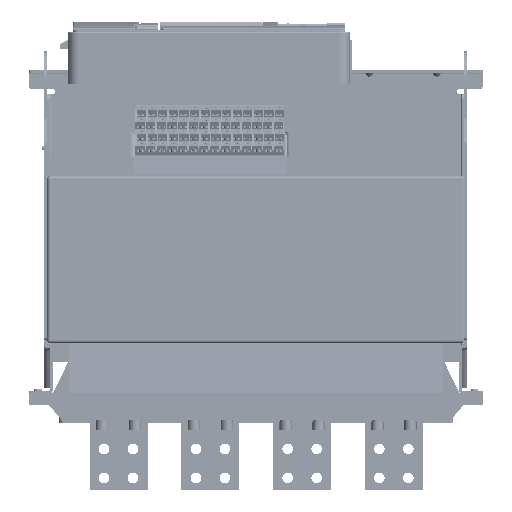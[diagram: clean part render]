
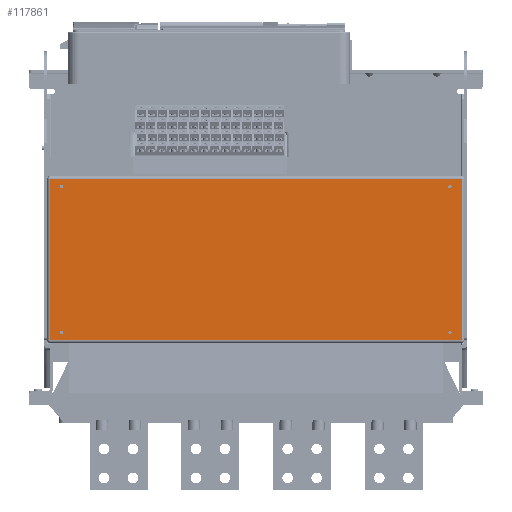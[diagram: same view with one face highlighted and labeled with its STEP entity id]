
A CAD part, front view. The second image highlights one B-rep face of the part: STEP entity #117861.
In plain terms, the highlighted planar face has unit normal (0, -1, 0).
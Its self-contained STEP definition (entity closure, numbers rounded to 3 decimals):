
#5237=FACE_BOUND('',#14784,.T.);
#5238=FACE_BOUND('',#14785,.T.);
#5239=FACE_BOUND('',#14786,.T.);
#5240=FACE_BOUND('',#14787,.T.);
#8092=FACE_OUTER_BOUND('',#14783,.T.);
#14783=EDGE_LOOP('',(#89693,#89694,#89695,#89696));
#14784=EDGE_LOOP('',(#89697));
#14785=EDGE_LOOP('',(#89698));
#14786=EDGE_LOOP('',(#89699));
#14787=EDGE_LOOP('',(#89700));
#20280=CIRCLE('',#126060,1.75);
#20281=CIRCLE('',#126061,1.75);
#20282=CIRCLE('',#126062,1.75);
#20283=CIRCLE('',#126063,1.75);
#27973=LINE('',#180668,#40714);
#27974=LINE('',#180670,#40715);
#27975=LINE('',#180672,#40716);
#27976=LINE('',#180673,#40717);
#40714=VECTOR('',#145216,167.);
#40715=VECTOR('',#145217,426.);
#40716=VECTOR('',#145218,167.);
#40717=VECTOR('',#145219,426.);
#52456=VERTEX_POINT('',#180666);
#52457=VERTEX_POINT('',#180667);
#52458=VERTEX_POINT('',#180669);
#52459=VERTEX_POINT('',#180671);
#52460=VERTEX_POINT('',#180674);
#52461=VERTEX_POINT('',#180676);
#52462=VERTEX_POINT('',#180678);
#52463=VERTEX_POINT('',#180680);
#65949=EDGE_CURVE('',#52456,#52457,#27973,.T.);
#65950=EDGE_CURVE('',#52457,#52458,#27974,.T.);
#65951=EDGE_CURVE('',#52458,#52459,#27975,.T.);
#65952=EDGE_CURVE('',#52459,#52456,#27976,.T.);
#65953=EDGE_CURVE('',#52460,#52460,#20280,.T.);
#65954=EDGE_CURVE('',#52461,#52461,#20281,.T.);
#65955=EDGE_CURVE('',#52462,#52462,#20282,.T.);
#65956=EDGE_CURVE('',#52463,#52463,#20283,.T.);
#89693=ORIENTED_EDGE('',*,*,#65949,.T.);
#89694=ORIENTED_EDGE('',*,*,#65950,.T.);
#89695=ORIENTED_EDGE('',*,*,#65951,.T.);
#89696=ORIENTED_EDGE('',*,*,#65952,.T.);
#89697=ORIENTED_EDGE('',*,*,#65953,.F.);
#89698=ORIENTED_EDGE('',*,*,#65954,.F.);
#89699=ORIENTED_EDGE('',*,*,#65955,.F.);
#89700=ORIENTED_EDGE('',*,*,#65956,.F.);
#113066=PLANE('',#126059);
#117861=ADVANCED_FACE('',(#8092,#5237,#5238,#5239,#5240),#113066,.F.);
#126059=AXIS2_PLACEMENT_3D('',#180665,#145214,#145215);
#126060=AXIS2_PLACEMENT_3D('',#180675,#145220,#145221);
#126061=AXIS2_PLACEMENT_3D('',#180677,#145222,#145223);
#126062=AXIS2_PLACEMENT_3D('',#180679,#145224,#145225);
#126063=AXIS2_PLACEMENT_3D('',#180681,#145226,#145227);
#145214=DIRECTION('center_axis',(0.,1.,0.));
#145215=DIRECTION('ref_axis',(1.,0.,0.));
#145216=DIRECTION('',(0.,0.,1.));
#145217=DIRECTION('',(-1.,0.,0.));
#145218=DIRECTION('',(0.,0.,-1.));
#145219=DIRECTION('',(1.,0.,0.));
#145220=DIRECTION('center_axis',(0.,-1.,0.));
#145221=DIRECTION('ref_axis',(1.,0.,0.));
#145222=DIRECTION('center_axis',(0.,-1.,0.));
#145223=DIRECTION('ref_axis',(1.,0.,0.));
#145224=DIRECTION('center_axis',(0.,-1.,0.));
#145225=DIRECTION('ref_axis',(1.,0.,0.));
#145226=DIRECTION('center_axis',(0.,-1.,0.));
#145227=DIRECTION('ref_axis',(1.,0.,0.));
#180665=CARTESIAN_POINT('Origin',(0.,0.,0.));
#180666=CARTESIAN_POINT('',(213.,0.,-83.5));
#180667=CARTESIAN_POINT('',(213.,0.,83.5));
#180668=CARTESIAN_POINT('',(213.,0.,-83.5));
#180669=CARTESIAN_POINT('',(-213.,0.,83.5));
#180670=CARTESIAN_POINT('',(213.,0.,83.5));
#180671=CARTESIAN_POINT('',(-213.,0.,-83.5));
#180672=CARTESIAN_POINT('',(-213.,0.,83.5));
#180673=CARTESIAN_POINT('',(-213.,0.,-83.5));
#180674=CARTESIAN_POINT('',(199.25,0.,75.5));
#180675=CARTESIAN_POINT('Origin',(201.,0.,75.5));
#180676=CARTESIAN_POINT('',(199.25,0.,-75.5));
#180677=CARTESIAN_POINT('Origin',(201.,0.,-75.5));
#180678=CARTESIAN_POINT('',(-202.75,0.,-75.5));
#180679=CARTESIAN_POINT('Origin',(-201.,0.,-75.5));
#180680=CARTESIAN_POINT('',(-202.75,0.,75.5));
#180681=CARTESIAN_POINT('Origin',(-201.,0.,75.5));
